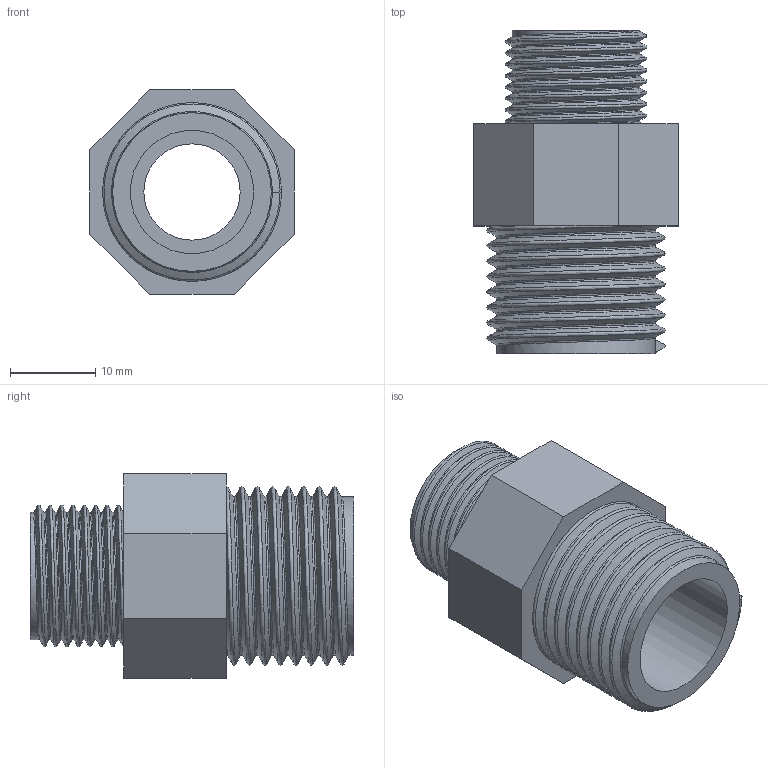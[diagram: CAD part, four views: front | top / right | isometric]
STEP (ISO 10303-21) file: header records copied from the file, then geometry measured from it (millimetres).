
FILE_DESCRIPTION(/* description */ ('PVC nipplo ridotto filettato BSP'),/* implementation_level */ '2;1');
FILE_NAME(/* name */ 'C:\Users\POLYPIPE\Desktop\DATASET INVENTOR\LIBRERIA EFFAST\RACCORDI 3DxWEB\RER\3D_RERNRE\3D_RERNRE020A.stp',/* time_stamp */ '2018-01-19T16:46:09+01:00',/* author */ ('POLYPIPE'),/* organization */ ('Polypipe Italia s.r.l.'),/* preprocessor_version */ 'ST-DEVELOPER v16.1',/* originating_system */ 'Autodesk Inventor 2016',/* authorisation */ '');
FILE_SCHEMA (('CONFIG_CONTROL_DESIGN'));
Length unit declared in the file: millimetre
Products named in the file (1): 3D_RERNRE
Bounding box: 24 x 38 x 24 mm (x, y, z)
Volume: 7294.4 mm3; surface area: 5675.3 mm2
Topology: 1 solids, 1 shells, 29 faces, 66 edges, 42 vertices
Faces by surface type: plane 15, bspline 10, cylinder 4
Full cylindrical faces by diameter (mm): 11.3 x1, 14.5 x1, 14.95 x1, 18.631 x1
Entity records: 7148 total; most frequent: CARTESIAN_POINT 6536, ORIENTED_EDGE 128, DIRECTION 94, EDGE_CURVE 64, VERTEX_POINT 42, EDGE_LOOP 36, AXIS2_PLACEMENT_3D 32, LINE 30
